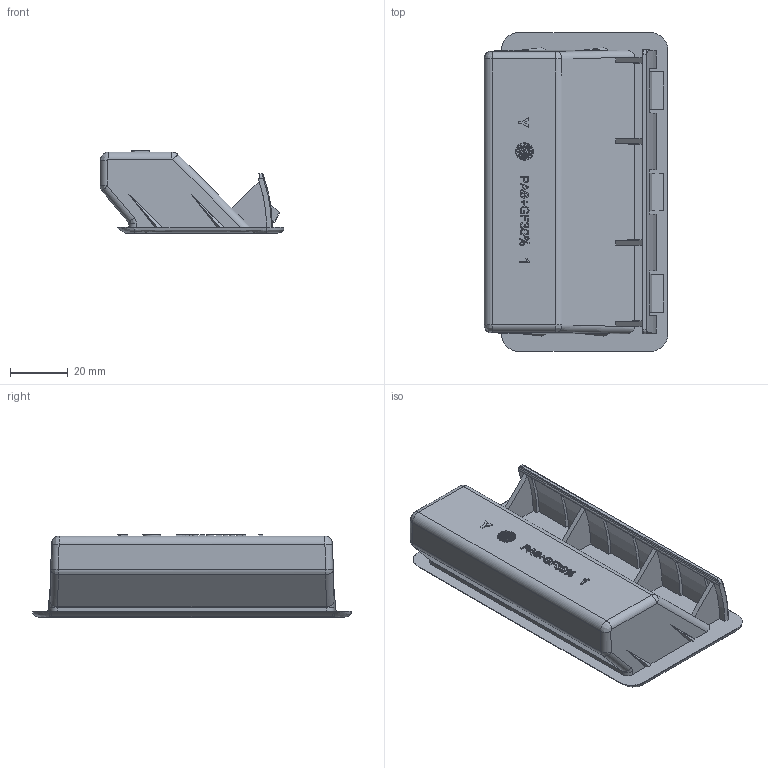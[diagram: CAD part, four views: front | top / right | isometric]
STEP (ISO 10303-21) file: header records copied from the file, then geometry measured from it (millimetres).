
FILE_DESCRIPTION((''),'2;1');
FILE_NAME('3301-01','2015-07-02T',('Administrator'),(''),'PRO/ENGINEER BY PARAMETRIC TECHNOLOGY CORPORATION, 2012230','PRO/ENGINEER BY PARAMETRIC TECHNOLOGY CORPORATION, 2012230','');
FILE_SCHEMA(('CONFIG_CONTROL_DESIGN','GEOMETRIC_VALIDATION_PROPERTIES_MIM'));
Products named in the file (1): 3301-01
Bounding box: 63.5 x 110 x 28.4 mm (x, y, z)
Volume: 29433.4 mm3; surface area: 30611.9 mm2
Topology: 1 solids, 1 shells, 899 faces, 2504 edges, 1642 vertices
Faces by surface type: bspline 536, plane 295, cylinder 66, torus 2
Entity records: 48144 total; most frequent: CARTESIAN_POINT 28398, ORIENTED_EDGE 4992, EDGE_CURVE 2496, DIRECTION 2485, VERTEX_POINT 1642, VECTOR 1263, LINE 1263, B_SPLINE_CURVE_WITH_KNOTS 985
